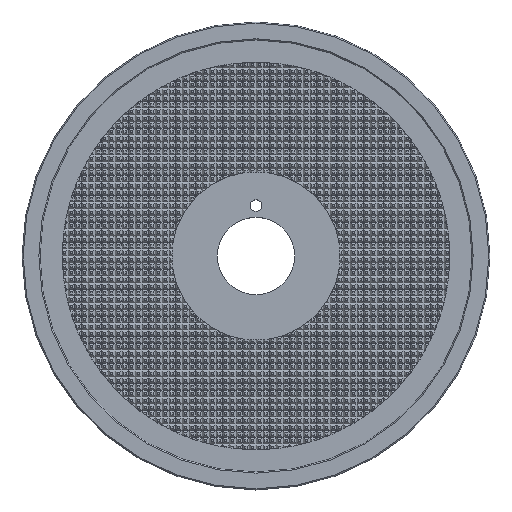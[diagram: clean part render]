
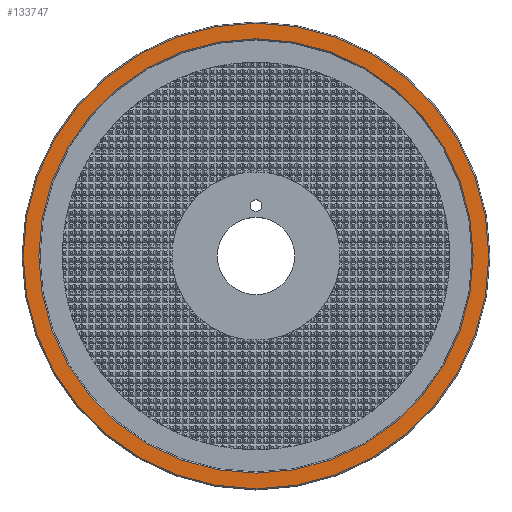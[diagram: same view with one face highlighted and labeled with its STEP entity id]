
A CAD part, top view. The second image highlights one B-rep face of the part: STEP entity #133747.
In plain terms, the highlighted planar face has unit normal (0, 0, 1).
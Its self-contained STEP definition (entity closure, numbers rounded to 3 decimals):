
#2368 = DIRECTION ( 'NONE',  ( 0., 0., 1. ) ) ;
#3529 = EDGE_CURVE ( 'NONE', #19408, #66342, #82587, .T. ) ;
#15721 = DIRECTION ( 'NONE',  ( 1., 0., 0. ) ) ;
#19408 = VERTEX_POINT ( 'NONE', #266605 ) ;
#32258 = EDGE_CURVE ( 'NONE', #200660, #269293, #213913, .T. ) ;
#35168 = DIRECTION ( 'NONE',  ( 1., 0., 0. ) ) ;
#36162 = CARTESIAN_POINT ( 'NONE',  ( 0., 0., 18. ) ) ;
#49145 = DIRECTION ( 'NONE',  ( 1., 0., 0. ) ) ;
#50229 = CARTESIAN_POINT ( 'NONE',  ( 0., 0., 18. ) ) ;
#50715 = ORIENTED_EDGE ( 'NONE', *, *, #32258, .T. ) ;
#52967 = DIRECTION ( 'NONE',  ( 0., 0., -1. ) ) ;
#53965 = ORIENTED_EDGE ( 'NONE', *, *, #3529, .T. ) ;
#63213 = CIRCLE ( 'NONE', #115364, 97. ) ;
#65081 = DIRECTION ( 'NONE',  ( 1., 0., 0. ) ) ;
#65437 = AXIS2_PLACEMENT_3D ( 'NONE', #105959, #2368, #65081 ) ;
#66342 = VERTEX_POINT ( 'NONE', #208539 ) ;
#68607 = EDGE_LOOP ( 'NONE', ( #53965, #69941 ) ) ;
#69941 = ORIENTED_EDGE ( 'NONE', *, *, #235901, .T. ) ;
#71753 = CARTESIAN_POINT ( 'NONE',  ( 0., 0., 18. ) ) ;
#77495 = AXIS2_PLACEMENT_3D ( 'NONE', #71753, #111269, #173981 ) ;
#82587 = CIRCLE ( 'NONE', #191327, 97. ) ;
#105859 = EDGE_LOOP ( 'NONE', ( #191040, #50715 ) ) ;
#105959 = CARTESIAN_POINT ( 'NONE',  ( 0., 0., 18. ) ) ;
#110451 = EDGE_CURVE ( 'NONE', #269293, #200660, #182989, .T. ) ;
#111269 = DIRECTION ( 'NONE',  ( 0., 0., 1. ) ) ;
#115364 = AXIS2_PLACEMENT_3D ( 'NONE', #50229, #52967, #35168 ) ;
#126743 = AXIS2_PLACEMENT_3D ( 'NONE', #196353, #212753, #49145 ) ;
#133747 = ADVANCED_FACE ( 'NONE', ( #214872, #238039 ), #193071, .T. ) ;
#161593 = DIRECTION ( 'NONE',  ( 0., 0., -1. ) ) ;
#173486 = CARTESIAN_POINT ( 'NONE',  ( 104., 0., 18. ) ) ;
#173981 = DIRECTION ( 'NONE',  ( 1., 0., 0. ) ) ;
#182989 = CIRCLE ( 'NONE', #65437, 104. ) ;
#191040 = ORIENTED_EDGE ( 'NONE', *, *, #110451, .T. ) ;
#191327 = AXIS2_PLACEMENT_3D ( 'NONE', #36162, #161593, #15721 ) ;
#193071 = PLANE ( 'NONE',  #77495 ) ;
#196353 = CARTESIAN_POINT ( 'NONE',  ( 0., 0., 18. ) ) ;
#200660 = VERTEX_POINT ( 'NONE', #173486 ) ;
#208539 = CARTESIAN_POINT ( 'NONE',  ( -97., 0., 18. ) ) ;
#212753 = DIRECTION ( 'NONE',  ( 0., 0., 1. ) ) ;
#213913 = CIRCLE ( 'NONE', #126743, 104. ) ;
#214872 = FACE_BOUND ( 'NONE', #68607, .T. ) ;
#223677 = CARTESIAN_POINT ( 'NONE',  ( -104., 0., 18. ) ) ;
#235901 = EDGE_CURVE ( 'NONE', #66342, #19408, #63213, .T. ) ;
#238039 = FACE_OUTER_BOUND ( 'NONE', #105859, .T. ) ;
#266605 = CARTESIAN_POINT ( 'NONE',  ( 97., 0., 18. ) ) ;
#269293 = VERTEX_POINT ( 'NONE', #223677 ) ;
